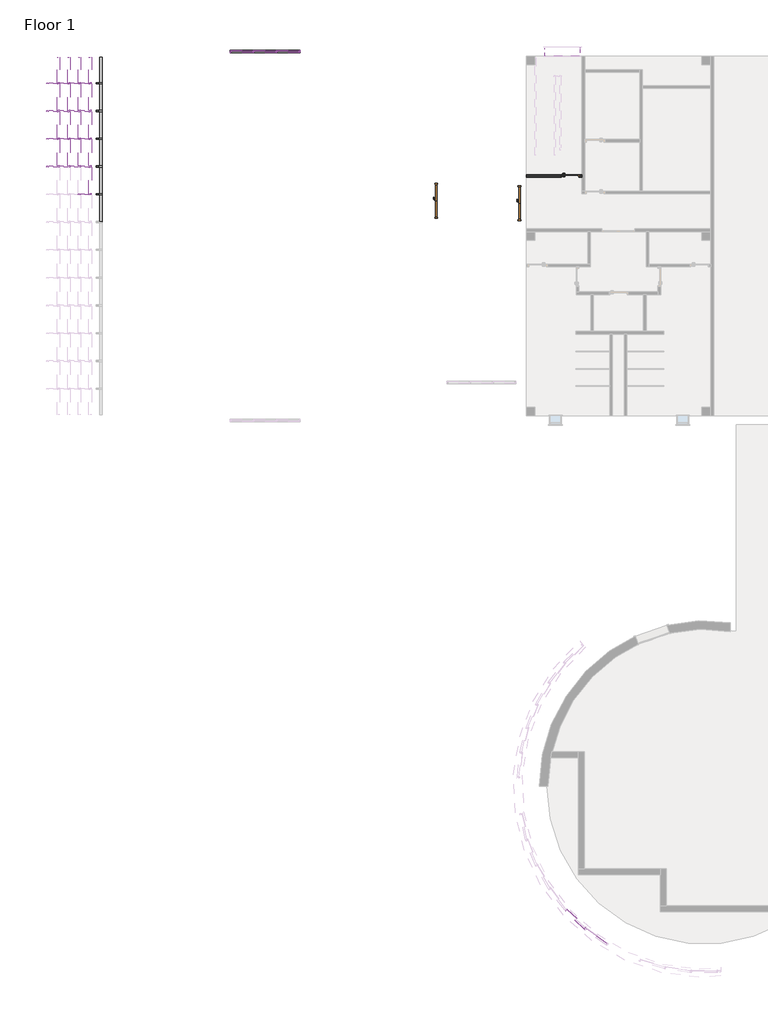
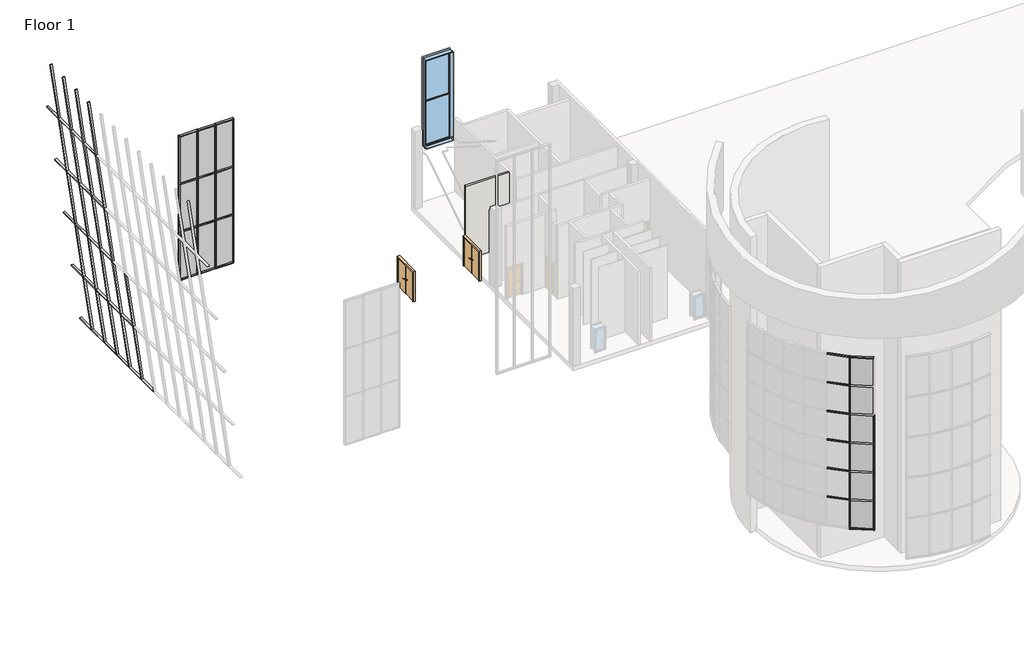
# One storey, part 4 of 11: 87 members, 15 plates, 3 doors, 1 wall, 1 window.
"""IFC4 building model written with IfcOpenShell, lengths in millimetres."""

from ifc_helpers import new_model, si_unit, frame, origin, place, context, project, spatial, polyline, outline, extrude, transform, mapped, element, save
from components import door_efda3cbc, door_a46f4f49, member_2f5ef470, member_233ab79f, member_995572cb, member_0efe1817, member_5e46efc9, member_58fb4e6d, member_60f5540e, member_3a2f4316, member_f8a9089e, member_5e02c13a, member_c609194f, member_8caa64b4, member_b283b77b, member_01a33192, member_b037884b, member_01a4c065, member_349911e8, member_7b18d258, member_74dafc5e, member_9434a11c, system_panel_glazed_c8739ac2, system_panel_glazed_d9a1cec6, window_double_hung1_stairwell_window_f29d4600

model = new_model("IFC4")

# Units and contexts
model_context = context("Model", 3, world=origin())
ifc_project = project(units=[si_unit("LENGTHUNIT", "METRE", prefix="MILLI")], contexts=[model_context])

# Site, building, storey
site = spatial("IfcSite", under=ifc_project)
building = spatial("IfcBuilding", under=site)
storey = spatial("IfcBuildingStorey", under=building, Name="Floor 1", Elevation=0.0)

# Doors
placement = place(None, origin())
door_shape = door_efda3cbc(model_context)
element("IfcDoor", 1, ObjectType="Door-Passage-Double-Flush : 68\" x 80\"", at=placement, inside=storey, context=model_context, shape_type="MappedRepresentation", body=[
    mapped(door_shape, transform((-3186.4602165, 49707.011889, 0.0), x_axis=(0.0, 1.0, 0.0), y_axis=(-1.0, 0.0, 0.0), z_axis=(0.0, 0.0, 1.0))),
])
element("IfcDoor", 2, ObjectType="Door-Passage-Double-Flush : 68\" x 80\"", at=placement, inside=storey, context=model_context, shape_type="MappedRepresentation", body=[
    mapped(door_shape, transform((-7527.8932976, 49821.311889, 0.0), x_axis=(0.0, 1.0, 0.0), y_axis=(-1.0, 0.0, 0.0), z_axis=(0.0, 0.0, 1.0))),
])
door_2_shape = door_a46f4f49(model_context)
element("IfcDoor", 3, ObjectType="Door-Passage-Single-Flush : 36\" x 84\"", at=placement, inside=storey, context=model_context, shape_type="MappedRepresentation", body=[
    mapped(door_2_shape, transform((-684.1807976, 51116.711889, 0.0), x_axis=(1.0, 0.0, 0.0), y_axis=(0.0, 1.0, 0.0), z_axis=(0.0, 0.0, 1.0))),
])

# Members
member_shape = member_2f5ef470(model_context)
element("IfcMember", 4, ObjectType="Rectangular Mullion1 : 2.5\" x 5\" rectangular", at=placement, inside=storey, context=model_context, shape_type="MappedRepresentation", body=[
    mapped(member_shape, transform((1235.4610146, 11112.8592493, 15849.6), x_axis=(0.0, 0.0, 1.0), y_axis=(-0.5828238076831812, -0.8125985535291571, 0.0), z_axis=(0.8125985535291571, -0.5828238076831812, 0.0))),
])
member_2_shape = member_233ab79f(model_context)
element("IfcMember", 5, ObjectType="Rectangular Mullion1 : 2.5\" x 5\" rectangular", at=placement, inside=storey, context=model_context, shape_type="MappedRepresentation", body=[
    mapped(member_2_shape, transform((98.4304721, 11934.0861139, 15849.6), x_axis=(0.0, 0.0, 1.0), y_axis=(-0.6953047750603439, -0.7187150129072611, 0.0), z_axis=(0.7187150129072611, -0.6953047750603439, 0.0))),
])
member_3_shape = member_995572cb(model_context)
element("IfcMember", 6, ObjectType="Rectangular Mullion1 : 2.5\" x 5\" rectangular", at=placement, inside=storey, context=model_context, shape_type="MappedRepresentation", body=[
    mapped(member_3_shape, transform((98.4304721, 11934.0861139, 5710.7666667), x_axis=(0.0, 0.0, 1.0), y_axis=(-0.695304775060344, -0.7187150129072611, 0.0), z_axis=(0.718715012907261, -0.6953047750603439, 0.0))),
])
element("IfcMember", 7, ObjectType="Rectangular Mullion1 : 2.5\" x 5\" rectangular", at=placement, inside=storey, context=model_context, shape_type="MappedRepresentation", body=[
    mapped(member_3_shape, transform((98.4304721, 11934.0861139, 7732.1833333), x_axis=(0.0, 0.0, 1.0), y_axis=(-0.695304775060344, -0.7187150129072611, 0.0), z_axis=(0.718715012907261, -0.6953047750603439, 0.0))),
])
element("IfcMember", 8, ObjectType="Rectangular Mullion1 : 2.5\" x 5\" rectangular", at=placement, inside=storey, context=model_context, shape_type="MappedRepresentation", body=[
    mapped(member_3_shape, transform((98.4304721, 11934.0861139, 9753.6), x_axis=(0.0, 0.0, 1.0), y_axis=(-0.6953047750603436, -0.7187150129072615, 0.0), z_axis=(0.7187150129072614, -0.6953047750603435, 0.0))),
])
element("IfcMember", 9, ObjectType="Rectangular Mullion1 : 2.5\" x 5\" rectangular", at=placement, inside=storey, context=model_context, shape_type="MappedRepresentation", body=[
    mapped(member_3_shape, transform((98.4304721, 11934.0861139, 11775.0166667), x_axis=(0.0, 0.0, 1.0), y_axis=(-0.6953047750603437, -0.7187150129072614, 0.0), z_axis=(0.7187150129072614, -0.6953047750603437, 0.0))),
])
element("IfcMember", 10, ObjectType="Rectangular Mullion1 : 2.5\" x 5\" rectangular", at=placement, inside=storey, context=model_context, shape_type="MappedRepresentation", body=[
    mapped(member_3_shape, transform((98.4304721, 11934.0861139, 13796.4333333), x_axis=(0.0, 0.0, 1.0), y_axis=(-0.6953047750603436, -0.7187150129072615, 0.0), z_axis=(0.7187150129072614, -0.6953047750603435, 0.0))),
])
member_4_shape = member_0efe1817(model_context)
element("IfcMember", 11, ObjectType="Rectangular Mullion1 : 2.5\" x 5\" rectangular", at=placement, inside=storey, context=model_context, shape_type="MappedRepresentation", body=[
    mapped(member_4_shape, transform((121.2496737, 11912.0101873, 3657.6), x_axis=(0.7671926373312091, -0.6414167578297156, 0.0), y_axis=(-0.6414167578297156, -0.7671926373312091, 0.0), z_axis=(0.0, 0.0, -1.0))),
])
member_5_shape = member_5e46efc9(model_context)
element("IfcMember", 12, ObjectType="Rectangular Mullion1 : 2.5\" x 5\" rectangular", at=placement, inside=storey, context=model_context, shape_type="MappedRepresentation", body=[
    mapped(member_5_shape, transform((121.2496737, 11912.0101873, 5710.7666667), x_axis=(0.7671926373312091, -0.6414167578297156, 0.0), y_axis=(-0.6414167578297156, -0.7671926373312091, 0.0), z_axis=(0.0, 0.0, -1.0))),
])
element("IfcMember", 13, ObjectType="Rectangular Mullion1 : 2.5\" x 5\" rectangular", at=placement, inside=storey, context=model_context, shape_type="MappedRepresentation", body=[
    mapped(member_5_shape, transform((121.2496737, 11912.0101873, 7732.1833333), x_axis=(0.7671926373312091, -0.6414167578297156, 0.0), y_axis=(-0.6414167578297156, -0.7671926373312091, 0.0), z_axis=(0.0, 0.0, -1.0))),
])
element("IfcMember", 14, ObjectType="Rectangular Mullion1 : 2.5\" x 5\" rectangular", at=placement, inside=storey, context=model_context, shape_type="MappedRepresentation", body=[
    mapped(member_5_shape, transform((121.2496737, 11912.0101873, 9753.6), x_axis=(0.7671926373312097, -0.6414167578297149, 0.0), y_axis=(-0.6414167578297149, -0.7671926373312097, 0.0), z_axis=(0.0, 0.0, -1.0))),
])
element("IfcMember", 15, ObjectType="Rectangular Mullion1 : 2.5\" x 5\" rectangular", at=placement, inside=storey, context=model_context, shape_type="MappedRepresentation", body=[
    mapped(member_5_shape, transform((121.2496737, 11912.0101873, 11775.0166667), x_axis=(0.7671926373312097, -0.6414167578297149, 0.0), y_axis=(-0.6414167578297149, -0.7671926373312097, 0.0), z_axis=(0.0, 0.0, -1.0))),
])
element("IfcMember", 16, ObjectType="Rectangular Mullion1 : 2.5\" x 5\" rectangular", at=placement, inside=storey, context=model_context, shape_type="MappedRepresentation", body=[
    mapped(member_4_shape, transform((121.2496737, 11912.0101873, 13796.4333333), x_axis=(0.7671926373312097, -0.6414167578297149, 0.0), y_axis=(-0.6414167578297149, -0.7671926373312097, 0.0), z_axis=(0.0, 0.0, -1.0))),
])
member_6_shape = member_58fb4e6d(model_context)
element("IfcMember", 17, ObjectType="Rectangular Mullion1 : 2.5\" x 5\" rectangular", at=placement, inside=storey, context=model_context, shape_type="MappedRepresentation", body=[
    mapped(member_6_shape, transform((147.0496778, 11893.5055314, 3657.6), x_axis=(0.0, 0.0, -1.0), y_axis=(-0.5828238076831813, -0.812598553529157, 0.0), z_axis=(-0.8125985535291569, 0.5828238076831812, 0.0))),
])
member_7_shape = member_60f5540e(model_context)
element("IfcMember", 18, ObjectType="Rectangular Mullion1 : 2.5\" x 5\" rectangular", at=placement, inside=storey, context=model_context, shape_type="MappedRepresentation", body=[
    mapped(member_7_shape, transform((1287.0610227, 11075.8499375, 3657.6), x_axis=(0.8125985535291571, -0.5828238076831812, 0.0), y_axis=(-0.5828238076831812, -0.8125985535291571, 0.0), z_axis=(0.0, 0.0, -1.0))),
])
member_8_shape = member_3a2f4316(model_context)
element("IfcMember", 19, ObjectType="Rectangular Mullion1 : 2.5\" x 5\" rectangular", at=placement, inside=storey, context=model_context, shape_type="MappedRepresentation", body=[
    mapped(member_8_shape, transform((1287.0610227, 11075.8499375, 5710.7666667), x_axis=(0.8125985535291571, -0.5828238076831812, 0.0), y_axis=(-0.5828238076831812, -0.8125985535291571, 0.0), z_axis=(0.0, 0.0, -1.0))),
])
element("IfcMember", 20, ObjectType="Rectangular Mullion1 : 2.5\" x 5\" rectangular", at=placement, inside=storey, context=model_context, shape_type="MappedRepresentation", body=[
    mapped(member_8_shape, transform((1287.0610227, 11075.8499375, 7732.1833333), x_axis=(0.8125985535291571, -0.5828238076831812, 0.0), y_axis=(-0.5828238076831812, -0.8125985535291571, 0.0), z_axis=(0.0, 0.0, -1.0))),
])
element("IfcMember", 21, ObjectType="Rectangular Mullion1 : 2.5\" x 5\" rectangular", at=placement, inside=storey, context=model_context, shape_type="MappedRepresentation", body=[
    mapped(member_8_shape, transform((1287.0610227, 11075.8499375, 9753.6), x_axis=(0.812598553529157, -0.5828238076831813, 0.0), y_axis=(-0.5828238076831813, -0.812598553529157, 0.0), z_axis=(0.0, 0.0, -1.0))),
])
member_9_shape = member_f8a9089e(model_context)
element("IfcMember", 22, ObjectType="Rectangular Mullion1 : 2.5\" x 5\" rectangular", at=placement, inside=storey, context=model_context, shape_type="MappedRepresentation", body=[
    mapped(member_9_shape, transform((-25136.1948919, 57303.199389, -154.1674984), x_axis=(0.13917310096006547, 0.0, -0.9902680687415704), y_axis=(-0.9902680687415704, 0.0, -0.13917310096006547), z_axis=(0.0, 1.0, 0.0))),
])
member_10_shape = member_5e02c13a(model_context)
element("IfcMember", 23, ObjectType="Rectangular Mullion1 : 2.5\" x 5\" rectangular", at=placement, inside=storey, context=model_context, shape_type="MappedRepresentation", body=[
    mapped(member_10_shape, transform((-25136.1948919, 55919.6320811, -154.1674984), x_axis=(0.13917310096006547, 0.0, -0.9902680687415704), y_axis=(-0.9902680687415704, 0.0, -0.13917310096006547), z_axis=(0.0, 1.0, 0.0))),
])
element("IfcMember", 24, ObjectType="Rectangular Mullion1 : 2.5\" x 5\" rectangular", at=placement, inside=storey, context=model_context, shape_type="MappedRepresentation", body=[
    mapped(member_10_shape, transform((-25136.1948919, 54472.5647734, -154.1674984), x_axis=(0.13917310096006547, 0.0, -0.9902680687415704), y_axis=(-0.9902680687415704, 0.0, -0.13917310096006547), z_axis=(0.0, 1.0, 0.0))),
])
element("IfcMember", 25, ObjectType="Rectangular Mullion1 : 2.5\" x 5\" rectangular", at=placement, inside=storey, context=model_context, shape_type="MappedRepresentation", body=[
    mapped(member_10_shape, transform((-25136.1948919, 53025.4974658, -154.1674984), x_axis=(0.13917310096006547, 0.0, -0.9902680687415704), y_axis=(-0.9902680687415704, 0.0, -0.13917310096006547), z_axis=(0.0, 1.0, 0.0))),
])
element("IfcMember", 26, ObjectType="Rectangular Mullion1 : 2.5\" x 5\" rectangular", at=placement, inside=storey, context=model_context, shape_type="MappedRepresentation", body=[
    mapped(member_10_shape, transform((-25136.1948919, 51578.4301581, -154.1674984), x_axis=(0.13917310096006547, 0.0, -0.9902680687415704), y_axis=(-0.9902680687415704, 0.0, -0.13917310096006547), z_axis=(0.0, 1.0, 0.0))),
])
element("IfcMember", 27, ObjectType="Rectangular Mullion1 : 2.5\" x 5\" rectangular", at=placement, inside=storey, context=model_context, shape_type="MappedRepresentation", body=[
    mapped(member_10_shape, transform((-25136.1948919, 50131.3628505, -154.1674984), x_axis=(0.13917310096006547, 0.0, -0.9902680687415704), y_axis=(-0.9902680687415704, 0.0, -0.13917310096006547), z_axis=(0.0, 1.0, 0.0))),
])
member_11_shape = member_c609194f(model_context)
element("IfcMember", 28, ObjectType="Rectangular Mullion1 : 2.5\" x 5\" rectangular", at=placement, inside=storey, context=model_context, shape_type="MappedRepresentation", body=[
    mapped(member_11_shape, transform((-25693.3790742, 55983.1320811, 3810.4039622), x_axis=(-0.13917310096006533, 0.0, 0.9902680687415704), y_axis=(-0.9902680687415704, 0.0, -0.13917310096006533), z_axis=(0.0, -1.0, 0.0))),
])
element("IfcMember", 29, ObjectType="Rectangular Mullion1 : 2.5\" x 5\" rectangular", at=placement, inside=storey, context=model_context, shape_type="MappedRepresentation", body=[
    mapped(member_11_shape, transform((-26246.1445106, 55983.1320811, 7743.5344115), x_axis=(-0.13917310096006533, 0.0, 0.9902680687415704), y_axis=(-0.9902680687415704, 0.0, -0.13917310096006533), z_axis=(0.0, -1.0, 0.0))),
])
element("IfcMember", 30, ObjectType="Rectangular Mullion1 : 2.5\" x 5\" rectangular", at=placement, inside=storey, context=model_context, shape_type="MappedRepresentation", body=[
    mapped(member_11_shape, transform((-26798.9099469, 55983.1320811, 11676.6648609), x_axis=(-0.13917310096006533, 0.0, 0.9902680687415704), y_axis=(-0.9902680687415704, 0.0, -0.13917310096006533), z_axis=(0.0, -1.0, 0.0))),
])
element("IfcMember", 31, ObjectType="Rectangular Mullion1 : 2.5\" x 5\" rectangular", at=placement, inside=storey, context=model_context, shape_type="MappedRepresentation", body=[
    mapped(member_11_shape, transform((-27351.6753833, 55983.1320811, 15609.7953102), x_axis=(-0.13917310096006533, 0.0, 0.9902680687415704), y_axis=(-0.9902680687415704, 0.0, -0.13917310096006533), z_axis=(0.0, -1.0, 0.0))),
])
member_12_shape = member_8caa64b4(model_context)
element("IfcMember", 32, ObjectType="Rectangular Mullion1 : 2.5\" x 5\" rectangular", at=placement, inside=storey, context=model_context, shape_type="MappedRepresentation", body=[
    mapped(member_12_shape, transform((-25693.3790742, 54536.0647734, 3810.4039622), x_axis=(-0.13917310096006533, 0.0, 0.9902680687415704), y_axis=(-0.9902680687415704, 0.0, -0.13917310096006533), z_axis=(0.0, -1.0, 0.0))),
])
element("IfcMember", 33, ObjectType="Rectangular Mullion1 : 2.5\" x 5\" rectangular", at=placement, inside=storey, context=model_context, shape_type="MappedRepresentation", body=[
    mapped(member_12_shape, transform((-25693.3790742, 53088.9974658, 3810.4039622), x_axis=(-0.13917310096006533, 0.0, 0.9902680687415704), y_axis=(-0.9902680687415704, 0.0, -0.13917310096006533), z_axis=(0.0, -1.0, 0.0))),
])
element("IfcMember", 34, ObjectType="Rectangular Mullion1 : 2.5\" x 5\" rectangular", at=placement, inside=storey, context=model_context, shape_type="MappedRepresentation", body=[
    mapped(member_12_shape, transform((-25693.3790742, 51641.9301581, 3810.4039622), x_axis=(-0.13917310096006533, 0.0, 0.9902680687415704), y_axis=(-0.9902680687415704, 0.0, -0.13917310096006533), z_axis=(0.0, -1.0, 0.0))),
])
element("IfcMember", 35, ObjectType="Rectangular Mullion1 : 2.5\" x 5\" rectangular", at=placement, inside=storey, context=model_context, shape_type="MappedRepresentation", body=[
    mapped(member_12_shape, transform((-25693.3790742, 50194.8628505, 3810.4039622), x_axis=(-0.13917310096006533, 0.0, 0.9902680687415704), y_axis=(-0.9902680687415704, 0.0, -0.13917310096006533), z_axis=(0.0, -1.0, 0.0))),
])
element("IfcMember", 36, ObjectType="Rectangular Mullion1 : 2.5\" x 5\" rectangular", at=placement, inside=storey, context=model_context, shape_type="MappedRepresentation", body=[
    mapped(member_12_shape, transform((-26246.1445106, 54536.0647734, 7743.5344115), x_axis=(-0.13917310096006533, 0.0, 0.9902680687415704), y_axis=(-0.9902680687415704, 0.0, -0.13917310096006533), z_axis=(0.0, -1.0, 0.0))),
])
element("IfcMember", 37, ObjectType="Rectangular Mullion1 : 2.5\" x 5\" rectangular", at=placement, inside=storey, context=model_context, shape_type="MappedRepresentation", body=[
    mapped(member_12_shape, transform((-26246.1445106, 53088.9974658, 7743.5344115), x_axis=(-0.13917310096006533, 0.0, 0.9902680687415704), y_axis=(-0.9902680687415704, 0.0, -0.13917310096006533), z_axis=(0.0, -1.0, 0.0))),
])
element("IfcMember", 38, ObjectType="Rectangular Mullion1 : 2.5\" x 5\" rectangular", at=placement, inside=storey, context=model_context, shape_type="MappedRepresentation", body=[
    mapped(member_12_shape, transform((-26246.1445106, 51641.9301581, 7743.5344115), x_axis=(-0.13917310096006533, 0.0, 0.9902680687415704), y_axis=(-0.9902680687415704, 0.0, -0.13917310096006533), z_axis=(0.0, -1.0, 0.0))),
])
element("IfcMember", 39, ObjectType="Rectangular Mullion1 : 2.5\" x 5\" rectangular", at=placement, inside=storey, context=model_context, shape_type="MappedRepresentation", body=[
    mapped(member_12_shape, transform((-26798.9099469, 54536.0647734, 11676.6648609), x_axis=(-0.13917310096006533, 0.0, 0.9902680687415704), y_axis=(-0.9902680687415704, 0.0, -0.13917310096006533), z_axis=(0.0, -1.0, 0.0))),
])
element("IfcMember", 40, ObjectType="Rectangular Mullion1 : 2.5\" x 5\" rectangular", at=placement, inside=storey, context=model_context, shape_type="MappedRepresentation", body=[
    mapped(member_12_shape, transform((-26798.9099469, 53088.9974658, 11676.6648609), x_axis=(-0.13917310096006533, 0.0, 0.9902680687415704), y_axis=(-0.9902680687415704, 0.0, -0.13917310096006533), z_axis=(0.0, -1.0, 0.0))),
])
element("IfcMember", 41, ObjectType="Rectangular Mullion1 : 2.5\" x 5\" rectangular", at=placement, inside=storey, context=model_context, shape_type="MappedRepresentation", body=[
    mapped(member_12_shape, transform((-26798.9099469, 51641.9301581, 11676.6648609), x_axis=(-0.13917310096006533, 0.0, 0.9902680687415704), y_axis=(-0.9902680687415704, 0.0, -0.13917310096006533), z_axis=(0.0, -1.0, 0.0))),
])
element("IfcMember", 42, ObjectType="Rectangular Mullion1 : 2.5\" x 5\" rectangular", at=placement, inside=storey, context=model_context, shape_type="MappedRepresentation", body=[
    mapped(member_12_shape, transform((-27351.6753833, 54536.0647734, 15609.7953102), x_axis=(-0.13917310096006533, 0.0, 0.9902680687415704), y_axis=(-0.9902680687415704, 0.0, -0.13917310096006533), z_axis=(0.0, -1.0, 0.0))),
])
element("IfcMember", 43, ObjectType="Rectangular Mullion1 : 2.5\" x 5\" rectangular", at=placement, inside=storey, context=model_context, shape_type="MappedRepresentation", body=[
    mapped(member_12_shape, transform((-27351.6753833, 53088.9974658, 15609.7953102), x_axis=(-0.13917310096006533, 0.0, 0.9902680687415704), y_axis=(-0.9902680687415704, 0.0, -0.13917310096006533), z_axis=(0.0, -1.0, 0.0))),
])
element("IfcMember", 44, ObjectType="Rectangular Mullion1 : 2.5\" x 5\" rectangular", at=placement, inside=storey, context=model_context, shape_type="MappedRepresentation", body=[
    mapped(member_12_shape, transform((-27351.6753833, 51641.9301581, 15609.7953102), x_axis=(-0.13917310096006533, 0.0, 0.9902680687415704), y_axis=(-0.9902680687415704, 0.0, -0.13917310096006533), z_axis=(0.0, -1.0, 0.0))),
])
member_13_shape = member_b283b77b(model_context)
element("IfcMember", 45, ObjectType="Rectangular Mullion1 : 2.5\" x 5\" rectangular", at=placement, inside=storey, context=model_context, shape_type="MappedRepresentation", body=[
    mapped(member_13_shape, transform((-25136.1948919, 55951.3820811, -154.1674984), x_axis=(0.0, -1.0, 0.0), y_axis=(-0.9902680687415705, 0.0, -0.13917310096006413), z_axis=(0.13917310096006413, 0.0, -0.9902680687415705))),
])
element("IfcMember", 46, ObjectType="Rectangular Mullion1 : 2.5\" x 5\" rectangular", at=placement, inside=storey, context=model_context, shape_type="MappedRepresentation", body=[
    mapped(member_13_shape, transform((-25136.1948919, 54504.3147734, -154.1674984), x_axis=(0.0, -1.0, 0.0), y_axis=(-0.99026806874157, 0.0, -0.1391731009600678), z_axis=(0.1391731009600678, 0.0, -0.99026806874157))),
])
element("IfcMember", 47, ObjectType="Rectangular Mullion1 : 2.5\" x 5\" rectangular", at=placement, inside=storey, context=model_context, shape_type="MappedRepresentation", body=[
    mapped(member_13_shape, transform((-25136.1948919, 53057.2474658, -154.1674984), x_axis=(0.0, -1.0, 0.0), y_axis=(-0.9902680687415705, 0.0, -0.13917310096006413), z_axis=(0.13917310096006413, 0.0, -0.9902680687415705))),
])
element("IfcMember", 48, ObjectType="Rectangular Mullion1 : 2.5\" x 5\" rectangular", at=placement, inside=storey, context=model_context, shape_type="MappedRepresentation", body=[
    mapped(member_13_shape, transform((-25136.1948919, 51610.1801581, -154.1674984), x_axis=(0.0, -1.0, 0.0), y_axis=(-0.99026806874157, 0.0, -0.1391731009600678), z_axis=(0.1391731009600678, 0.0, -0.99026806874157))),
])
element("IfcMember", 49, ObjectType="Rectangular Mullion1 : 2.5\" x 5\" rectangular", at=placement, inside=storey, context=model_context, shape_type="MappedRepresentation", body=[
    mapped(member_13_shape, transform((-25136.1948919, 50163.1128505, -154.1674984), x_axis=(0.0, -1.0, 0.0), y_axis=(-0.9902680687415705, 0.0, -0.13917310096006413), z_axis=(0.13917310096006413, 0.0, -0.9902680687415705))),
])
member_14_shape = member_01a33192(model_context)
element("IfcMember", 50, ObjectType="Rectangular Mullion1 : 2.5\" x 5\" rectangular", at=placement, inside=storey, context=model_context, shape_type="MappedRepresentation", body=[
    mapped(member_14_shape, transform((-25693.3790742, 55951.3820811, 3810.4039622), x_axis=(0.0, -1.0, 0.0), y_axis=(-0.9902680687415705, 0.0, -0.13917310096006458), z_axis=(0.13917310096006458, 0.0, -0.9902680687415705))),
])
element("IfcMember", 51, ObjectType="Rectangular Mullion1 : 2.5\" x 5\" rectangular", at=placement, inside=storey, context=model_context, shape_type="MappedRepresentation", body=[
    mapped(member_14_shape, transform((-25693.3790742, 54504.3147734, 3810.4039622), x_axis=(0.0, -1.0, 0.0), y_axis=(-0.9902680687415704, 0.0, -0.13917310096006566), z_axis=(0.13917310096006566, 0.0, -0.9902680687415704))),
])
element("IfcMember", 52, ObjectType="Rectangular Mullion1 : 2.5\" x 5\" rectangular", at=placement, inside=storey, context=model_context, shape_type="MappedRepresentation", body=[
    mapped(member_14_shape, transform((-25693.3790742, 53057.2474658, 3810.4039622), x_axis=(0.0, -1.0, 0.0), y_axis=(-0.9902680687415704, 0.0, -0.13917310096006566), z_axis=(0.13917310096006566, 0.0, -0.9902680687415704))),
])
element("IfcMember", 53, ObjectType="Rectangular Mullion1 : 2.5\" x 5\" rectangular", at=placement, inside=storey, context=model_context, shape_type="MappedRepresentation", body=[
    mapped(member_14_shape, transform((-25693.3790742, 51610.1801581, 3810.4039622), x_axis=(0.0, -1.0, 0.0), y_axis=(-0.9902680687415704, 0.0, -0.13917310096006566), z_axis=(0.13917310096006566, 0.0, -0.9902680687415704))),
])
element("IfcMember", 54, ObjectType="Rectangular Mullion1 : 2.5\" x 5\" rectangular", at=placement, inside=storey, context=model_context, shape_type="MappedRepresentation", body=[
    mapped(member_14_shape, transform((-25693.3790742, 50163.1128505, 3810.4039622), x_axis=(0.0, -1.0, 0.0), y_axis=(-0.9902680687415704, 0.0, -0.13917310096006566), z_axis=(0.13917310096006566, 0.0, -0.9902680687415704))),
])
element("IfcMember", 55, ObjectType="Rectangular Mullion1 : 2.5\" x 5\" rectangular", at=placement, inside=storey, context=model_context, shape_type="MappedRepresentation", body=[
    mapped(member_14_shape, transform((-26246.1445106, 55951.3820811, 7743.5344115), x_axis=(0.0, -1.0, 0.0), y_axis=(-0.9902680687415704, 0.0, -0.13917310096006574), z_axis=(0.13917310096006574, 0.0, -0.9902680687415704))),
])
element("IfcMember", 56, ObjectType="Rectangular Mullion1 : 2.5\" x 5\" rectangular", at=placement, inside=storey, context=model_context, shape_type="MappedRepresentation", body=[
    mapped(member_14_shape, transform((-26246.1445106, 54504.3147734, 7743.5344115), x_axis=(0.0, -1.0, 0.0), y_axis=(-0.9902680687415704, 0.0, -0.13917310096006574), z_axis=(0.13917310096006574, 0.0, -0.9902680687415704))),
])
element("IfcMember", 57, ObjectType="Rectangular Mullion1 : 2.5\" x 5\" rectangular", at=placement, inside=storey, context=model_context, shape_type="MappedRepresentation", body=[
    mapped(member_14_shape, transform((-26246.1445106, 53057.2474658, 7743.5344115), x_axis=(0.0, -1.0, 0.0), y_axis=(-0.9902680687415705, 0.0, -0.13917310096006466), z_axis=(0.13917310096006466, 0.0, -0.9902680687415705))),
])
element("IfcMember", 58, ObjectType="Rectangular Mullion1 : 2.5\" x 5\" rectangular", at=placement, inside=storey, context=model_context, shape_type="MappedRepresentation", body=[
    mapped(member_14_shape, transform((-26246.1445106, 51610.1801581, 7743.5344115), x_axis=(0.0, -1.0, 0.0), y_axis=(-0.9902680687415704, 0.0, -0.13917310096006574), z_axis=(0.13917310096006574, 0.0, -0.9902680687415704))),
])
element("IfcMember", 59, ObjectType="Rectangular Mullion1 : 2.5\" x 5\" rectangular", at=placement, inside=storey, context=model_context, shape_type="MappedRepresentation", body=[
    mapped(member_14_shape, transform((-26798.9099469, 55951.3820811, 11676.6648609), x_axis=(0.0, -1.0, 0.0), y_axis=(-0.9902680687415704, 0.0, -0.13917310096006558), z_axis=(0.13917310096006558, 0.0, -0.9902680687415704))),
])
element("IfcMember", 60, ObjectType="Rectangular Mullion1 : 2.5\" x 5\" rectangular", at=placement, inside=storey, context=model_context, shape_type="MappedRepresentation", body=[
    mapped(member_14_shape, transform((-26798.9099469, 54504.3147734, 11676.6648609), x_axis=(0.0, -1.0, 0.0), y_axis=(-0.9902680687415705, 0.0, -0.1391731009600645), z_axis=(0.1391731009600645, 0.0, -0.9902680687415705))),
])
element("IfcMember", 61, ObjectType="Rectangular Mullion1 : 2.5\" x 5\" rectangular", at=placement, inside=storey, context=model_context, shape_type="MappedRepresentation", body=[
    mapped(member_14_shape, transform((-26798.9099469, 53057.2474658, 11676.6648609), x_axis=(0.0, -1.0, 0.0), y_axis=(-0.9902680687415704, 0.0, -0.13917310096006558), z_axis=(0.13917310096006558, 0.0, -0.9902680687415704))),
])
element("IfcMember", 62, ObjectType="Rectangular Mullion1 : 2.5\" x 5\" rectangular", at=placement, inside=storey, context=model_context, shape_type="MappedRepresentation", body=[
    mapped(member_14_shape, transform((-26798.9099469, 51610.1801581, 11676.6648609), x_axis=(0.0, -1.0, 0.0), y_axis=(-0.9902680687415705, 0.0, -0.1391731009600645), z_axis=(0.1391731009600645, 0.0, -0.9902680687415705))),
])
element("IfcMember", 63, ObjectType="Rectangular Mullion1 : 2.5\" x 5\" rectangular", at=placement, inside=storey, context=model_context, shape_type="MappedRepresentation", body=[
    mapped(member_13_shape, transform((-27351.6753833, 55951.3820811, 15609.7953102), x_axis=(0.0, -1.0, 0.0), y_axis=(-0.9902680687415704, 0.0, -0.13917310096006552), z_axis=(0.1391731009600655, 0.0, -0.9902680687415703))),
])
element("IfcMember", 64, ObjectType="Rectangular Mullion1 : 2.5\" x 5\" rectangular", at=placement, inside=storey, context=model_context, shape_type="MappedRepresentation", body=[
    mapped(member_13_shape, transform((-27351.6753833, 54504.3147734, 15609.7953102), x_axis=(0.0, -1.0, 0.0), y_axis=(-0.9902680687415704, 0.0, -0.13917310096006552), z_axis=(0.1391731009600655, 0.0, -0.9902680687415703))),
])
element("IfcMember", 65, ObjectType="Rectangular Mullion1 : 2.5\" x 5\" rectangular", at=placement, inside=storey, context=model_context, shape_type="MappedRepresentation", body=[
    mapped(member_13_shape, transform((-27351.6753833, 53057.2474658, 15609.7953102), x_axis=(0.0, -1.0, 0.0), y_axis=(-0.9902680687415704, 0.0, -0.13917310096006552), z_axis=(0.1391731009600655, 0.0, -0.9902680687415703))),
])
element("IfcMember", 66, ObjectType="Rectangular Mullion1 : 2.5\" x 5\" rectangular", at=placement, inside=storey, context=model_context, shape_type="MappedRepresentation", body=[
    mapped(member_13_shape, transform((-27351.6753833, 51610.1801581, 15609.7953102), x_axis=(0.0, -1.0, 0.0), y_axis=(-0.9902680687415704, 0.0, -0.13917310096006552), z_axis=(0.1391731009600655, 0.0, -0.9902680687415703))),
])
member_15_shape = member_b037884b(model_context)
element("IfcMember", 67, ObjectType="Rectangular Mullion1 : 2.5\" x 5\" rectangular", at=placement, inside=storey, context=model_context, shape_type="MappedRepresentation", body=[
    mapped(member_15_shape, transform((-18341.9432976, 57593.711889, 10210.8), x_axis=(0.0, 0.0, 1.0), y_axis=(0.0, 1.0, 0.0), z_axis=(-1.0, 0.0, 0.0))),
])
element("IfcMember", 68, ObjectType="Rectangular Mullion1 : 2.5\" x 5\" rectangular", at=placement, inside=storey, context=model_context, shape_type="MappedRepresentation", body=[
    mapped(member_15_shape, transform((-15945.8766311, 57593.711889, 10210.8), x_axis=(0.0, 0.0, 1.0), y_axis=(0.0, 1.0, 0.0), z_axis=(-1.0, 0.0, 0.0))),
])
element("IfcMember", 69, ObjectType="Rectangular Mullion1 : 2.5\" x 5\" rectangular", at=placement, inside=storey, context=model_context, shape_type="MappedRepresentation", body=[
    mapped(member_15_shape, transform((-17143.9099642, 57593.711889, 10210.8), x_axis=(0.0, 0.0, 1.0), y_axis=(0.0, 1.0, 0.0), z_axis=(-1.0, 0.0, 0.0))),
])
element("IfcMember", 70, ObjectType="Rectangular Mullion1 : 2.5\" x 5\" rectangular", at=placement, inside=storey, context=model_context, shape_type="MappedRepresentation", body=[
    mapped(member_15_shape, transform((-14811.3432976, 57593.711889, 0.0), x_axis=(0.0, 0.0, -1.0), y_axis=(0.0, 1.0, 0.0), z_axis=(1.0, 0.0, 0.0))),
])
element("IfcMember", 71, ObjectType="Rectangular Mullion1 : 2.5\" x 5\" rectangular", at=placement, inside=storey, context=model_context, shape_type="MappedRepresentation", body=[
    mapped(member_15_shape, transform((-16009.3766311, 57593.711889, 0.0), x_axis=(0.0, 0.0, -1.0), y_axis=(0.0, 1.0, 0.0), z_axis=(1.0, 0.0, 0.0))),
])
element("IfcMember", 72, ObjectType="Rectangular Mullion1 : 2.5\" x 5\" rectangular", at=placement, inside=storey, context=model_context, shape_type="MappedRepresentation", body=[
    mapped(member_15_shape, transform((-17207.4099642, 57593.711889, 0.0), x_axis=(0.0, 0.0, -1.0), y_axis=(0.0, 1.0, 0.0), z_axis=(1.0, 0.0, 0.0))),
])
member_16_shape = member_01a4c065(model_context)
element("IfcMember", 73, ObjectType="Rectangular Mullion1 : 2.5\" x 5\" rectangular", at=placement, inside=storey, context=model_context, shape_type="MappedRepresentation", body=[
    mapped(member_16_shape, transform((-15945.8766311, 57593.711889, 3414.1833333), x_axis=(0.0, 0.0, 1.0), y_axis=(0.0, 1.0, 0.0), z_axis=(-1.0, 0.0, 0.0))),
])
element("IfcMember", 74, ObjectType="Rectangular Mullion1 : 2.5\" x 5\" rectangular", at=placement, inside=storey, context=model_context, shape_type="MappedRepresentation", body=[
    mapped(member_16_shape, transform((-17143.9099642, 57593.711889, 3414.1833333), x_axis=(0.0, 0.0, 1.0), y_axis=(0.0, 1.0, 0.0), z_axis=(-1.0, 0.0, 0.0))),
])
element("IfcMember", 75, ObjectType="Rectangular Mullion1 : 2.5\" x 5\" rectangular", at=placement, inside=storey, context=model_context, shape_type="MappedRepresentation", body=[
    mapped(member_16_shape, transform((-18341.9432976, 57593.711889, 3414.1833333), x_axis=(0.0, 0.0, 1.0), y_axis=(0.0, 1.0, 0.0), z_axis=(-1.0, 0.0, 0.0))),
])
element("IfcMember", 76, ObjectType="Rectangular Mullion1 : 2.5\" x 5\" rectangular", at=placement, inside=storey, context=model_context, shape_type="MappedRepresentation", body=[
    mapped(member_16_shape, transform((-15945.8766311, 57593.711889, 6796.6166667), x_axis=(0.0, 0.0, 1.0), y_axis=(0.0, 1.0, 0.0), z_axis=(-1.0, 0.0, 0.0))),
])
element("IfcMember", 77, ObjectType="Rectangular Mullion1 : 2.5\" x 5\" rectangular", at=placement, inside=storey, context=model_context, shape_type="MappedRepresentation", body=[
    mapped(member_16_shape, transform((-17143.9099642, 57593.711889, 6796.6166667), x_axis=(0.0, 0.0, 1.0), y_axis=(0.0, 1.0, 0.0), z_axis=(-1.0, 0.0, 0.0))),
])
element("IfcMember", 78, ObjectType="Rectangular Mullion1 : 2.5\" x 5\" rectangular", at=placement, inside=storey, context=model_context, shape_type="MappedRepresentation", body=[
    mapped(member_16_shape, transform((-18341.9432976, 57593.711889, 6796.6166667), x_axis=(0.0, 0.0, 1.0), y_axis=(0.0, 1.0, 0.0), z_axis=(-1.0, 0.0, 0.0))),
])
member_17_shape = member_349911e8(model_context)
element("IfcMember", 79, ObjectType="Rectangular Mullion1 : 2.5\" x 5\" rectangular", at=placement, inside=storey, context=model_context, shape_type="MappedRepresentation", body=[
    mapped(member_17_shape, transform((-15977.6266311, 57593.711889, 0.0), x_axis=(-1.0, 0.0, 0.0), y_axis=(0.0, 1.0, 0.0), z_axis=(0.0, 0.0, -1.0))),
])
element("IfcMember", 80, ObjectType="Rectangular Mullion1 : 2.5\" x 5\" rectangular", at=placement, inside=storey, context=model_context, shape_type="MappedRepresentation", body=[
    mapped(member_17_shape, transform((-17175.6599642, 57593.711889, 0.0), x_axis=(-1.0, 0.0, 0.0), y_axis=(0.0, 1.0, 0.0), z_axis=(0.0, 0.0, -1.0))),
])
member_18_shape = member_7b18d258(model_context)
element("IfcMember", 81, ObjectType="Rectangular Mullion1 : 2.5\" x 5\" rectangular", at=placement, inside=storey, context=model_context, shape_type="MappedRepresentation", body=[
    mapped(member_18_shape, transform((-15977.6266311, 57593.711889, 3414.1833333), x_axis=(-1.0, 0.0, 0.0), y_axis=(0.0, 1.0, 0.0), z_axis=(0.0, 0.0, -1.0))),
])
element("IfcMember", 82, ObjectType="Rectangular Mullion1 : 2.5\" x 5\" rectangular", at=placement, inside=storey, context=model_context, shape_type="MappedRepresentation", body=[
    mapped(member_18_shape, transform((-17175.6599642, 57593.711889, 3414.1833333), x_axis=(-1.0, 0.0, 0.0), y_axis=(0.0, 1.0, 0.0), z_axis=(0.0, 0.0, -1.0))),
])
element("IfcMember", 83, ObjectType="Rectangular Mullion1 : 2.5\" x 5\" rectangular", at=placement, inside=storey, context=model_context, shape_type="MappedRepresentation", body=[
    mapped(member_17_shape, transform((-15977.6266311, 57593.711889, 6796.6166667), x_axis=(-1.0, 0.0, 0.0), y_axis=(0.0, 1.0, 0.0), z_axis=(0.0, 0.0, -1.0))),
])
element("IfcMember", 84, ObjectType="Rectangular Mullion1 : 2.5\" x 5\" rectangular", at=placement, inside=storey, context=model_context, shape_type="MappedRepresentation", body=[
    mapped(member_17_shape, transform((-17175.6599642, 57593.711889, 6796.6166667), x_axis=(-1.0, 0.0, 0.0), y_axis=(0.0, 1.0, 0.0), z_axis=(0.0, 0.0, -1.0))),
])
member_19_shape = member_74dafc5e(model_context)
element("IfcMember", 85, ObjectType="Rectangular Mullion1 : 2.5\" x 5\" rectangular", at=placement, inside=storey, context=model_context, shape_type="MappedRepresentation", body=[
    mapped(member_19_shape, transform((-18405.4432976, 57593.711889, 0.0), x_axis=(-1.0, 0.0, 0.0), y_axis=(0.0, 1.0, 0.0), z_axis=(0.0, 0.0, -1.0))),
])
member_20_shape = member_9434a11c(model_context)
element("IfcMember", 86, ObjectType="Rectangular Mullion1 : 2.5\" x 5\" rectangular", at=placement, inside=storey, context=model_context, shape_type="MappedRepresentation", body=[
    mapped(member_20_shape, transform((-18405.4432976, 57593.711889, 3414.1833333), x_axis=(-1.0, 0.0, 0.0), y_axis=(0.0, 1.0, 0.0), z_axis=(0.0, 0.0, -1.0))),
])
element("IfcMember", 87, ObjectType="Rectangular Mullion1 : 2.5\" x 5\" rectangular", at=placement, inside=storey, context=model_context, shape_type="MappedRepresentation", body=[
    mapped(member_19_shape, transform((-18405.4432976, 57593.711889, 6796.6166667), x_axis=(-1.0, 0.0, 0.0), y_axis=(0.0, 1.0, 0.0), z_axis=(0.0, 0.0, -1.0))),
])
element("IfcMember", 88, ObjectType="Rectangular Mullion1 : 2.5\" x 5\" rectangular", at=placement, inside=storey, context=model_context, shape_type="MappedRepresentation", body=[
    mapped(member_19_shape, transform((-14747.8432976, 57593.711889, 10210.8), x_axis=(1.0, 0.0, 0.0), y_axis=(0.0, 1.0, 0.0), z_axis=(0.0, 0.0, 1.0))),
])
element("IfcMember", 89, ObjectType="Rectangular Mullion1 : 2.5\" x 5\" rectangular", at=placement, inside=storey, context=model_context, shape_type="MappedRepresentation", body=[
    mapped(member_19_shape, transform((-14747.8432976, 57593.711889, 3414.1833333), x_axis=(1.0, 0.0, 0.0), y_axis=(0.0, 1.0, 0.0), z_axis=(0.0, 0.0, 1.0))),
])
element("IfcMember", 90, ObjectType="Rectangular Mullion1 : 2.5\" x 5\" rectangular", at=placement, inside=storey, context=model_context, shape_type="MappedRepresentation", body=[
    mapped(member_20_shape, transform((-14747.8432976, 57593.711889, 6796.6166667), x_axis=(1.0, 0.0, 0.0), y_axis=(0.0, 1.0, 0.0), z_axis=(0.0, 0.0, 1.0))),
])

# Plates
system_panel_glazed_shape = system_panel_glazed_c8739ac2(model_context)
element("IfcPlate", 91, ObjectType="System Panel : Glazed", at=placement, inside=storey, context=model_context, shape_type="MappedRepresentation", body=[
    mapped(system_panel_glazed_shape, transform((691.2553462, 11503.1823903, 3721.1), x_axis=(0.8125985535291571, -0.5828238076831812, 0.0), y_axis=(0.5828238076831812, 0.8125985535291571, 0.0), z_axis=(0.0, 0.0, 1.0))),
])
element("IfcPlate", 92, ObjectType="System Panel : Glazed", at=placement, inside=storey, context=model_context, shape_type="MappedRepresentation", body=[
    mapped(system_panel_glazed_shape, transform((691.2553462, 11503.1823903, 5742.5166667), x_axis=(0.8125985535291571, -0.5828238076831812, 0.0), y_axis=(0.5828238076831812, 0.8125985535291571, 0.0), z_axis=(0.0, 0.0, 1.0))),
])
element("IfcPlate", 93, ObjectType="System Panel : Glazed", at=placement, inside=storey, context=model_context, shape_type="MappedRepresentation", body=[
    mapped(system_panel_glazed_shape, transform((691.2553462, 11503.1823903, 7763.9333333), x_axis=(0.8125985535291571, -0.5828238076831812, 0.0), y_axis=(0.5828238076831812, 0.8125985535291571, 0.0), z_axis=(0.0, 0.0, 1.0))),
])
element("IfcPlate", 94, ObjectType="System Panel : Glazed", at=placement, inside=storey, context=model_context, shape_type="MappedRepresentation", body=[
    mapped(system_panel_glazed_shape, transform((691.2553462, 11503.1823903, 9785.35), x_axis=(0.812598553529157, -0.5828238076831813, 0.0), y_axis=(0.5828238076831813, 0.812598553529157, 0.0), z_axis=(0.0, 0.0, 1.0))),
])
element("IfcPlate", 95, ObjectType="System Panel : Glazed", at=placement, inside=storey, context=model_context, shape_type="MappedRepresentation", body=[
    mapped(system_panel_glazed_shape, transform((691.2553462, 11503.1823903, 11806.7666667), x_axis=(0.8125985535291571, -0.5828238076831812, 0.0), y_axis=(0.5828238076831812, 0.8125985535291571, 0.0), z_axis=(0.0, 0.0, 1.0))),
])
element("IfcPlate", 96, ObjectType="System Panel : Glazed", at=placement, inside=storey, context=model_context, shape_type="MappedRepresentation", body=[
    mapped(system_panel_glazed_shape, transform((691.2553462, 11503.1823903, 13828.1833333), x_axis=(0.8125985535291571, -0.5828238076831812, 0.0), y_axis=(0.5828238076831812, 0.8125985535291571, 0.0), z_axis=(0.0, 0.0, 1.0))),
])
system_panel_glazed_2_shape = system_panel_glazed_d9a1cec6(model_context)
element("IfcPlate", 97, ObjectType="System Panel : Glazed", at=placement, inside=storey, context=model_context, shape_type="MappedRepresentation", body=[
    mapped(system_panel_glazed_2_shape, transform((-15378.6099644, 57593.711889, 63.5), x_axis=(-1.0, 0.0, 0.0), y_axis=(0.0, -1.0, 0.0), z_axis=(0.0, 0.0, 1.0))),
])
element("IfcPlate", 98, ObjectType="System Panel : Glazed", at=placement, inside=storey, context=model_context, shape_type="MappedRepresentation", body=[
    mapped(system_panel_glazed_2_shape, transform((-16576.6432976, 57593.711889, 63.5), x_axis=(-1.0, 0.0, 0.0), y_axis=(0.0, -1.0, 0.0), z_axis=(0.0, 0.0, 1.0))),
])
element("IfcPlate", 99, ObjectType="System Panel : Glazed", at=placement, inside=storey, context=model_context, shape_type="MappedRepresentation", body=[
    mapped(system_panel_glazed_2_shape, transform((-17774.6766309, 57593.711889, 63.5), x_axis=(-1.0, 0.0, 0.0), y_axis=(0.0, -1.0, 0.0), z_axis=(0.0, 0.0, 1.0))),
])
element("IfcPlate", 100, ObjectType="System Panel : Glazed", at=placement, inside=storey, context=model_context, shape_type="MappedRepresentation", body=[
    mapped(system_panel_glazed_2_shape, transform((-15378.6099644, 57593.711889, 3445.9333333), x_axis=(-1.0, 0.0, 0.0), y_axis=(0.0, -1.0, 0.0), z_axis=(0.0, 0.0, 1.0))),
])
element("IfcPlate", 101, ObjectType="System Panel : Glazed", at=placement, inside=storey, context=model_context, shape_type="MappedRepresentation", body=[
    mapped(system_panel_glazed_2_shape, transform((-16576.6432976, 57593.711889, 3445.9333333), x_axis=(-1.0, 0.0, 0.0), y_axis=(0.0, -1.0, 0.0), z_axis=(0.0, 0.0, 1.0))),
])
element("IfcPlate", 102, ObjectType="System Panel : Glazed", at=placement, inside=storey, context=model_context, shape_type="MappedRepresentation", body=[
    mapped(system_panel_glazed_2_shape, transform((-17774.6766309, 57593.711889, 3445.9333333), x_axis=(-1.0, 0.0, 0.0), y_axis=(0.0, -1.0, 0.0), z_axis=(0.0, 0.0, 1.0))),
])
element("IfcPlate", 103, ObjectType="System Panel : Glazed", at=placement, inside=storey, context=model_context, shape_type="MappedRepresentation", body=[
    mapped(system_panel_glazed_2_shape, transform((-15378.6099644, 57593.711889, 6828.3666667), x_axis=(-1.0, 0.0, 0.0), y_axis=(0.0, -1.0, 0.0), z_axis=(0.0, 0.0, 1.0))),
])
element("IfcPlate", 104, ObjectType="System Panel : Glazed", at=placement, inside=storey, context=model_context, shape_type="MappedRepresentation", body=[
    mapped(system_panel_glazed_2_shape, transform((-16576.6432976, 57593.711889, 6828.3666667), x_axis=(-1.0, 0.0, 0.0), y_axis=(0.0, -1.0, 0.0), z_axis=(0.0, 0.0, 1.0))),
])
element("IfcPlate", 105, ObjectType="System Panel : Glazed", at=placement, inside=storey, context=model_context, shape_type="MappedRepresentation", body=[
    mapped(system_panel_glazed_2_shape, transform((-17774.6766309, 57593.711889, 6828.3666667), x_axis=(-1.0, 0.0, 0.0), y_axis=(0.0, -1.0, 0.0), z_axis=(0.0, 0.0, 1.0))),
])

# Wall
element("IfcWall", 106, ObjectType="Interior - 5 1/2\" Partition (1-hr)", at=placement, inside=storey, context=model_context, shape_type="SweptSolid", body=[
    extrude(outline(polyline([(2235.2, -176.1807976), (0.0, -176.1807976), (0.0, -61.8807976), (5181.6, -61.8807976), (5181.6, -2965.7977165), (0.0, -2965.7977165), (0.0, -1192.1807976), (2235.2, -1192.1807976), (2235.2, -176.1807976)])), frame((0.0, 51053.211889, 0.0), z_axis=(0.0, 1.0, 0.0), x_axis=(0.0, 0.0, 1.0)), (0.0, 0.0, 1.0), 139.7),
])

# Window
window_double_hung1_stairwell_window_shape = window_double_hung1_stairwell_window_f29d4600(model_context)
element("IfcWindow", 107, ObjectType="Window-Double-Hung1 : Stairwell Window", at=placement, inside=storey, context=model_context, shape_type="MappedRepresentation", body=[
    mapped(window_double_hung1_stairwell_window_shape, transform((-1084.2307976, 57593.711889, 2743.2), x_axis=(1.0, 0.0, 0.0), y_axis=(0.0, 1.0, 0.0), z_axis=(0.0, 0.0, 1.0))),
])

save(model, "model.ifc")
